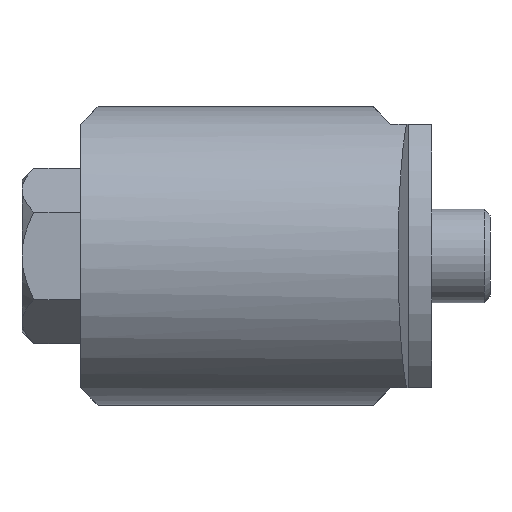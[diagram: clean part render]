
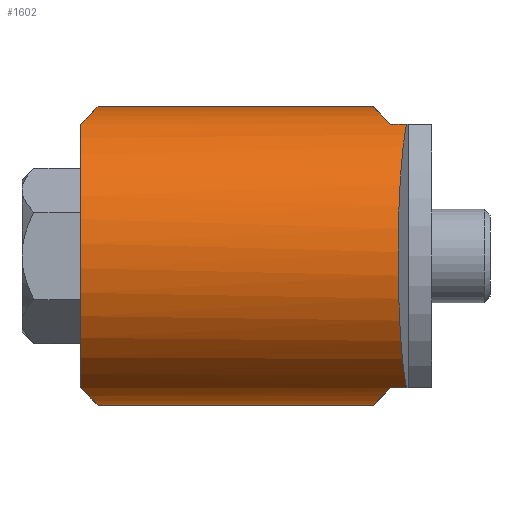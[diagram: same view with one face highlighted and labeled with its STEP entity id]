
A CAD part, left-side view. The second image highlights one B-rep face of the part: STEP entity #1602.
In plain terms, the highlighted cylindrical face has radius 12.75 mm (diameter 25.5 mm), a partial arc.
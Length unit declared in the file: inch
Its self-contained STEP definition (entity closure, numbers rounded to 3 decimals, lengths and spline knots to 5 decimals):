
#55=ELLIPSE('',#1733,0.70989,0.50197);
#56=ELLIPSE('',#1736,0.70989,0.50197);
#57=ELLIPSE('',#1739,0.70989,0.50197);
#58=ELLIPSE('',#1741,0.70989,0.50197);
#59=ELLIPSE('',#1745,0.50473,0.50197);
#94=LINE('',#2484,#180);
#107=LINE('',#2514,#193);
#116=LINE('',#2539,#202);
#117=LINE('',#2541,#203);
#180=VECTOR('',#1988,0.3937);
#193=VECTOR('',#2007,0.3937);
#202=VECTOR('',#2034,0.3937);
#203=VECTOR('',#2037,0.3937);
#263=CYLINDRICAL_SURFACE('',#1746,0.50197);
#305=FACE_OUTER_BOUND('',#402,.T.);
#402=EDGE_LOOP('',(#1072,#1073,#1074,#1075,#1076,#1077,#1078,#1079,#1080,
#1081));
#516=CIRCLE('',#1747,0.50197);
#625=VERTEX_POINT('',#2474);
#626=VERTEX_POINT('',#2475);
#629=VERTEX_POINT('',#2483);
#634=VERTEX_POINT('',#2495);
#635=VERTEX_POINT('',#2496);
#642=VERTEX_POINT('',#2511);
#643=VERTEX_POINT('',#2513);
#645=VERTEX_POINT('',#2519);
#647=VERTEX_POINT('',#2525);
#648=VERTEX_POINT('',#2526);
#786=EDGE_CURVE('',#625,#626,#55,.T.);
#790=EDGE_CURVE('',#626,#629,#94,.T.);
#796=EDGE_CURVE('',#634,#635,#56,.T.);
#804=EDGE_CURVE('',#643,#642,#107,.T.);
#807=EDGE_CURVE('',#642,#645,#57,.T.);
#810=EDGE_CURVE('',#647,#648,#58,.T.);
#816=EDGE_CURVE('',#629,#643,#59,.T.);
#817=EDGE_CURVE('',#645,#647,#116,.T.);
#818=EDGE_CURVE('',#634,#648,#516,.T.);
#819=EDGE_CURVE('',#625,#635,#117,.T.);
#1072=ORIENTED_EDGE('',*,*,#786,.T.);
#1073=ORIENTED_EDGE('',*,*,#790,.T.);
#1074=ORIENTED_EDGE('',*,*,#816,.T.);
#1075=ORIENTED_EDGE('',*,*,#804,.T.);
#1076=ORIENTED_EDGE('',*,*,#807,.T.);
#1077=ORIENTED_EDGE('',*,*,#817,.T.);
#1078=ORIENTED_EDGE('',*,*,#810,.T.);
#1079=ORIENTED_EDGE('',*,*,#818,.F.);
#1080=ORIENTED_EDGE('',*,*,#796,.T.);
#1081=ORIENTED_EDGE('',*,*,#819,.F.);
#1602=ADVANCED_FACE('',(#305),#263,.T.);
#1733=AXIS2_PLACEMENT_3D('',#2476,#1981,#1982);
#1736=AXIS2_PLACEMENT_3D('',#2497,#1996,#1997);
#1739=AXIS2_PLACEMENT_3D('',#2520,#2012,#2013);
#1741=AXIS2_PLACEMENT_3D('',#2527,#2018,#2019);
#1745=AXIS2_PLACEMENT_3D('',#2537,#2030,#2031);
#1746=AXIS2_PLACEMENT_3D('',#2538,#2032,#2033);
#1747=AXIS2_PLACEMENT_3D('',#2540,#2035,#2036);
#1981=DIRECTION('center_axis',(0.,0.707,0.707));
#1982=DIRECTION('ref_axis',(0.,-0.707,0.707));
#1988=DIRECTION('',(0.,-1.,0.));
#1996=DIRECTION('center_axis',(0.,-0.707,0.707));
#1997=DIRECTION('ref_axis',(0.,0.707,0.707));
#2007=DIRECTION('',(0.,1.,0.));
#2012=DIRECTION('center_axis',(0.,0.707,-0.707));
#2013=DIRECTION('ref_axis',(0.,0.707,0.707));
#2018=DIRECTION('center_axis',(0.,-0.707,-0.707));
#2019=DIRECTION('ref_axis',(0.,-0.707,0.707));
#2030=DIRECTION('center_axis',(0.105,0.995,0.));
#2031=DIRECTION('ref_axis',(-0.995,0.105,0.));
#2032=DIRECTION('center_axis',(0.,-1.,0.));
#2033=DIRECTION('ref_axis',(0.,0.,1.));
#2034=DIRECTION('',(0.,1.,0.));
#2035=DIRECTION('center_axis',(0.,1.,0.));
#2036=DIRECTION('ref_axis',(0.,0.,1.));
#2037=DIRECTION('',(0.,1.,0.));
#2474=CARTESIAN_POINT('',(-1.86193,0.66872,-0.02886));
#2475=CARTESIAN_POINT('',(-2.09815,0.60966,0.03019));
#2476=CARTESIAN_POINT('Origin',(-1.86193,0.16675,0.4731));
#2483=CARTESIAN_POINT('',(-2.09815,0.5562,0.03019));
#2484=CARTESIAN_POINT('',(-2.09815,1.65297,0.03019));
#2495=CARTESIAN_POINT('',(-2.09815,1.65297,0.03019));
#2496=CARTESIAN_POINT('',(-1.86193,1.59392,-0.02886));
#2497=CARTESIAN_POINT('Origin',(-1.86193,2.09589,0.4731));
#2511=CARTESIAN_POINT('',(-2.09815,0.60966,0.91602));
#2513=CARTESIAN_POINT('',(-2.09815,0.5562,0.91602));
#2514=CARTESIAN_POINT('',(-2.09815,1.65297,0.91602));
#2519=CARTESIAN_POINT('',(-1.86193,0.66872,0.97507));
#2520=CARTESIAN_POINT('Origin',(-1.86193,0.16675,0.4731));
#2525=CARTESIAN_POINT('',(-1.86193,1.59392,0.97507));
#2526=CARTESIAN_POINT('',(-2.09815,1.65297,0.91602));
#2527=CARTESIAN_POINT('Origin',(-1.86193,2.09589,0.4731));
#2537=CARTESIAN_POINT('Origin',(-1.86193,0.53137,0.4731));
#2538=CARTESIAN_POINT('Origin',(-1.86193,1.65297,0.4731));
#2539=CARTESIAN_POINT('',(-1.86193,1.65297,0.97507));
#2540=CARTESIAN_POINT('Origin',(-1.86193,1.65297,0.4731));
#2541=CARTESIAN_POINT('',(-1.86193,1.65297,-0.02886));
